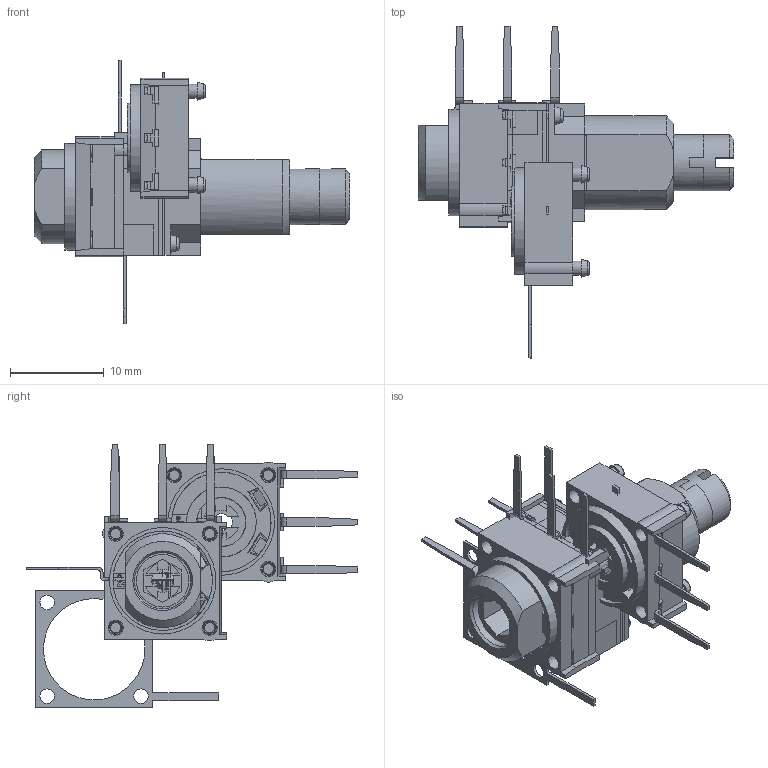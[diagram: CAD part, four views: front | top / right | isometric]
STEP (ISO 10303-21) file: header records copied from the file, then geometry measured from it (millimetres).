
FILE_DESCRIPTION( ( 'Unknown' ), '1' );
FILE_NAME( '//Nthy01/d_pl_p_det/Pots et Trims/P11/dossier_projet_SAP/Iges/P11S1V0FGSZ00102KA.stp', 'Unknown', ( 'Unknown' ), ( 'Unknown' ), 'PSStep 10.0', 'Unknown', ' ' );
FILE_SCHEMA( ( 'automotive_design' ) );
Length unit declared in the file: millimetre
Products named in the file (18): Z00-102; grille_p11_ci_pliée; Assem1; collecteur+sortie2_Ci_pliée; sortie1_Ci_pliée; sortie3_Ci_pliée; 3650610; 3650640; 3650970; 3650100-102; 3650913; 3650603; 3650540; 3650550; 3650820; 3653150; 3653420; 3653020
Bounding box: 33.63 x 35.37 x 28.11 mm (x, y, z)
Volume: 4227.5 mm3; surface area: 9141.4 mm2
Topology: 42 solids, 42 shells, 1719 faces, 4617 edges, 3037 vertices
Faces by surface type: plane 1046, cylinder 477, cone 135, bspline 36, torus 25
Full cylindrical faces by diameter (mm): 0.759 x3, 1.2 x3, 1.3 x12, 1.5 x26, 1.55 x16, 3.4 x2, 3.97 x2, 4 x5, 4.1 x4, 4.6 x3, 5.25 x3, 5.6 x2, 6 x4, 6.4 x2, 7.42 x2, 7.44 x3, 8.4 x2, 9.65 x2, 10.6 x3, 10.8 x2, 11.35 x3
Entity records: 18764 total; most frequent: CARTESIAN_POINT 4094, DIRECTION 2996, ORIENTED_EDGE 2878, EDGE_CURVE 1439, AXIS2_PLACEMENT_3D 1062, VERTEX_POINT 987, LINE 872, VECTOR 872
